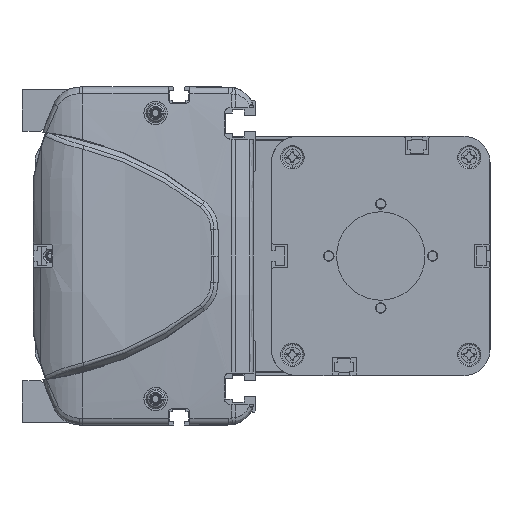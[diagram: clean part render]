
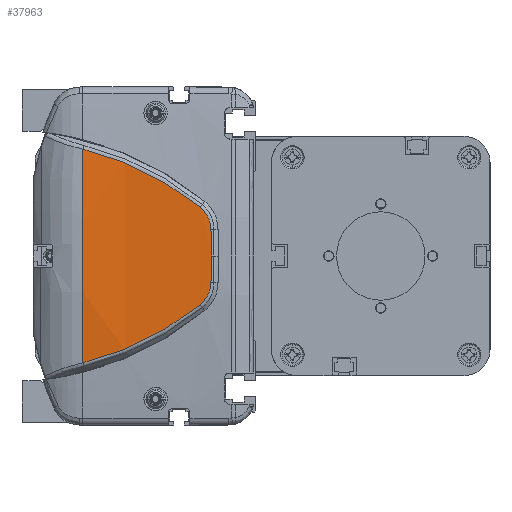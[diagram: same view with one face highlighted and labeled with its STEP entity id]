
A CAD part, left-side view. The second image highlights one B-rep face of the part: STEP entity #37963.
In plain terms, the highlighted cylindrical face has radius 500 mm (diameter 1000 mm), a partial arc.
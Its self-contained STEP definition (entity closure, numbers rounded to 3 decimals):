
#12122=CARTESIAN_POINT('',(-513.648,21.913,
-18.759));
#12123=CARTESIAN_POINT('',(-513.449,28.504,
-24.058));
#12124=CARTESIAN_POINT('',(-512.934,42.795,
-33.27));
#12125=CARTESIAN_POINT('',(-512.471,58.756,
-39.127));
#12126=CARTESIAN_POINT('',(-512.306,66.962,
-41.121));
#12128=CARTESIAN_POINT('',(-512.306,66.962,
41.121));
#12129=CARTESIAN_POINT('',(-512.471,58.756,
39.127));
#12130=CARTESIAN_POINT('',(-512.934,42.795,
33.27));
#12131=CARTESIAN_POINT('',(-513.449,28.504,
24.058));
#12132=CARTESIAN_POINT('',(-513.648,21.913,
18.759));
#12134=CARTESIAN_POINT('',(-513.648,21.913,
18.759));
#12135=CARTESIAN_POINT('',(-513.686,20.635,
17.736));
#12136=CARTESIAN_POINT('',(-513.779,18.536,
15.107));
#12137=CARTESIAN_POINT('',(-513.863,17.752,
11.827));
#12138=CARTESIAN_POINT('',(-513.896,17.724,
10.178));
#12140=CARTESIAN_POINT('',(-513.896,17.724,
10.178));
#12141=CARTESIAN_POINT('',(-513.92,17.707,
9.021));
#12142=CARTESIAN_POINT('',(-513.959,17.667,
6.724));
#12143=CARTESIAN_POINT('',(-513.993,17.579,
3.33));
#12144=CARTESIAN_POINT('',(-514.,17.498,
1.104));
#12145=CARTESIAN_POINT('',(-514.,17.449,
0.));
#12147=CARTESIAN_POINT('',(-514.,17.449,
0.));
#12148=CARTESIAN_POINT('',(-514.,17.498,
-1.104));
#12149=CARTESIAN_POINT('',(-513.993,17.579,
-3.33));
#12150=CARTESIAN_POINT('',(-513.959,17.667,
-6.723));
#12151=CARTESIAN_POINT('',(-513.92,17.707,
-9.023));
#12152=CARTESIAN_POINT('',(-513.896,17.724,
-10.18));
#12154=CARTESIAN_POINT('',(-513.896,17.724,
-10.18));
#12155=CARTESIAN_POINT('',(-513.863,17.752,
-11.828));
#12156=CARTESIAN_POINT('',(-513.779,18.537,
-15.109));
#12157=CARTESIAN_POINT('',(-513.686,20.635,
-17.736));
#12158=CARTESIAN_POINT('',(-513.648,21.913,
-18.759));
#12356=CARTESIAN_POINT('',(-14.,66.962,0.));
#12357=DIRECTION('',(0.,-1.,0.));
#12358=DIRECTION('',(-0.997,0.,0.082));
#12359=AXIS2_PLACEMENT_3D('',#12356,#12357,#12358);
#18079=VERTEX_POINT('',#12122);
#18080=VERTEX_POINT('',#12126);
#18081=CARTESIAN_POINT('',(-512.306,66.962,
41.121));
#18082=VERTEX_POINT('',#18081);
#18083=VERTEX_POINT('',#12132);
#18084=VERTEX_POINT('',#12138);
#18085=VERTEX_POINT('',#12145);
#18086=VERTEX_POINT('',#12152);
#37943=CARTESIAN_POINT('',(-14.,8.606,0.));
#37944=DIRECTION('',(0.,1.,0.));
#37945=DIRECTION('',(1.,0.,0.));
#37946=AXIS2_PLACEMENT_3D('',#37943,#37944,#37945);
#37947=CYLINDRICAL_SURFACE('',#37946,500.);
#37949=ORIENTED_EDGE('',*,*,#37948,.T.);
#37951=ORIENTED_EDGE('',*,*,#37950,.F.);
#37952=ORIENTED_EDGE('',*,*,#37934,.T.);
#37954=ORIENTED_EDGE('',*,*,#37953,.T.);
#37956=ORIENTED_EDGE('',*,*,#37955,.T.);
#37958=ORIENTED_EDGE('',*,*,#37957,.T.);
#37960=ORIENTED_EDGE('',*,*,#37959,.T.);
#37961=EDGE_LOOP('',(#37949,#37951,#37952,#37954,#37956,#37958,#37960));
#37962=FACE_OUTER_BOUND('',#37961,.F.);
#37963=ADVANCED_FACE('',(#37962),#37947,.T.);
#12127=B_SPLINE_CURVE_WITH_KNOTS('',3,(#12122,#12123,#12124,#12125,#12126),
.UNSPECIFIED.,.F.,.F.,(4,1,4),(0.,0.5,1.),.UNSPECIFIED.);
#12133=B_SPLINE_CURVE_WITH_KNOTS('',3,(#12128,#12129,#12130,#12131,#12132),
.UNSPECIFIED.,.F.,.F.,(4,1,4),(0.,0.5,1.),.UNSPECIFIED.);
#12139=B_SPLINE_CURVE_WITH_KNOTS('',3,(#12134,#12135,#12136,#12137,#12138),
.UNSPECIFIED.,.F.,.F.,(4,1,4),(0.,0.5,1.),.UNSPECIFIED.);
#12146=B_SPLINE_CURVE_WITH_KNOTS('',3,(#12140,#12141,#12142,#12143,#12144,
#12145),.UNSPECIFIED.,.F.,.F.,(4,1,1,4),(0.,0.333,
0.667,1.),.UNSPECIFIED.);
#12153=B_SPLINE_CURVE_WITH_KNOTS('',3,(#12147,#12148,#12149,#12150,#12151,
#12152),.UNSPECIFIED.,.F.,.F.,(4,1,1,4),(0.,0.333,
0.667,1.),.UNSPECIFIED.);
#12159=B_SPLINE_CURVE_WITH_KNOTS('',3,(#12154,#12155,#12156,#12157,#12158),
.UNSPECIFIED.,.F.,.F.,(4,1,4),(0.,0.5,1.),.UNSPECIFIED.);
#12360=CIRCLE('',#12359,500.);
#37934=EDGE_CURVE('',#18082,#18083,#12133,.T.);
#37948=EDGE_CURVE('',#18079,#18080,#12127,.T.);
#37950=EDGE_CURVE('',#18082,#18080,#12360,.T.);
#37953=EDGE_CURVE('',#18083,#18084,#12139,.T.);
#37955=EDGE_CURVE('',#18084,#18085,#12146,.T.);
#37957=EDGE_CURVE('',#18085,#18086,#12153,.T.);
#37959=EDGE_CURVE('',#18086,#18079,#12159,.T.);
